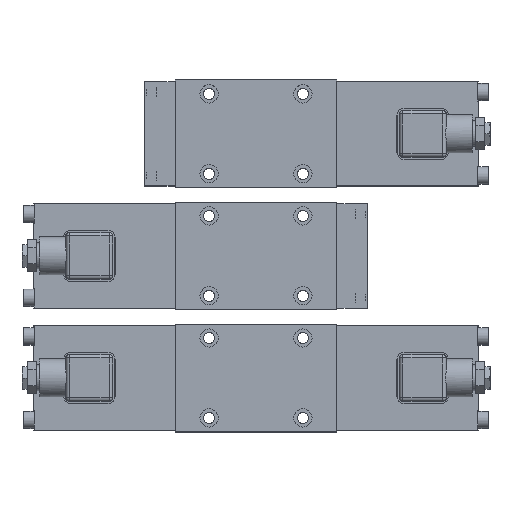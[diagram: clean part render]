
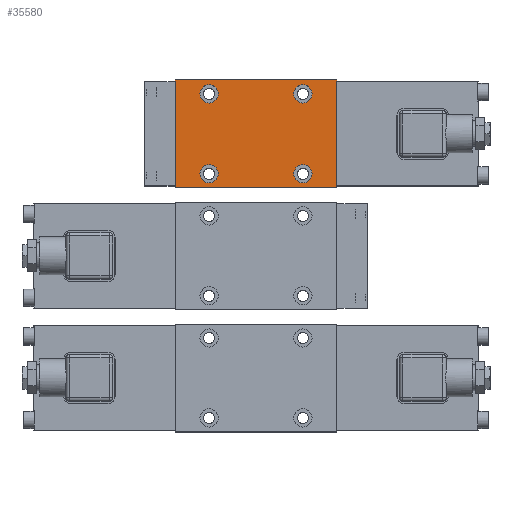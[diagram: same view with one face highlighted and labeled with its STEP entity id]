
A CAD part, top view. The second image highlights one B-rep face of the part: STEP entity #35580.
In plain terms, the highlighted planar face has unit normal (0, 0, 1).
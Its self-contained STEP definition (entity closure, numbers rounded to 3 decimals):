
#35580=ADVANCED_FACE('', (#35590,#35600,#35610,#35620,#35630), #35640, 
.T.);
#110420=AXIS2_PLACEMENT_3D('Ax2Pl3d', #110430, #110440, #110450);
#110500=AXIS2_PLACEMENT_3D('Ax2Pl3d', #110510, #110520, #110530);
#110580=AXIS2_PLACEMENT_3D('Ax2Pl3d', #110590, #110600, #110610);
#110660=AXIS2_PLACEMENT_3D('Ax2Pl3d', #110670, #110680, #110690);
#110700=AXIS2_PLACEMENT_3D('Ax2Pl3d', #110710, #110720, #110730);
#171900=CARTESIAN_POINT('', (0.,140.,362.));
#171910=CARTESIAN_POINT('', (0.,140.,362.));
#171920=CARTESIAN_POINT('', (0.,202.,362.));
#172030=CARTESIAN_POINT('', (93.,202.,362.));
#172040=CARTESIAN_POINT('', (93.,202.,362.));
#172050=CARTESIAN_POINT('', (93.,140.,362.));
#110430=CARTESIAN_POINT('HicPkt', (19.5,148.,362.));
#172130=CARTESIAN_POINT('', (19.5,153.25,362.));
#110510=CARTESIAN_POINT('HicPkt', (19.5,194.,362.));
#172140=CARTESIAN_POINT('', (19.5,199.25,362.));
#110590=CARTESIAN_POINT('HicPkt', (73.5,194.,362.));
#172150=CARTESIAN_POINT('', (73.5,199.25,362.));
#110670=CARTESIAN_POINT('HicPkt', (73.5,148.,362.));
#172160=CARTESIAN_POINT('', (73.5,153.25,362.));
#110710=CARTESIAN_POINT('HicPkt', (0.,202.,362.));
#172170=CARTESIAN_POINT('', (93.,140.,362.));
#172180=CARTESIAN_POINT('', (0.,202.,362.));
#181530=CIRCLE('Circle', #110420, 5.25);
#181540=CIRCLE('Circle', #110500, 5.25);
#181550=CIRCLE('Circle', #110580, 5.25);
#181560=CIRCLE('Circle', #110660, 5.25);
#271580=DIRECTION('', (0.,-1.,0.));
#271610=DIRECTION('', (0.,1.,0.));
#110440=DIRECTION('Axis', (0.,0.,1.));
#110450=DIRECTION('RefDirection', (1.,0.,0.));
#110520=DIRECTION('Axis', (0.,0.,1.));
#110530=DIRECTION('RefDirection', (1.,0.,0.));
#110600=DIRECTION('Axis', (0.,0.,1.));
#110610=DIRECTION('RefDirection', (1.,0.,0.));
#110680=DIRECTION('Axis', (0.,0.,1.));
#110690=DIRECTION('RefDirection', (1.,0.,0.));
#110720=DIRECTION('Axis', (0.,0.,1.));
#110730=DIRECTION('RefDirection', (1.,0.,0.));
#271630=DIRECTION('', (1.,0.,0.));
#271640=DIRECTION('', (-1.,0.,0.));
#317550=EDGE_CURVE('', #317560, #317530, #317570, .T.);
#317790=EDGE_CURVE('', #317800, #317770, #317810, .T.);
#317960=EDGE_CURVE('', #317970, #317970, #181530, .T.);
#317980=EDGE_CURVE('', #317990, #317990, #181540, .T.);
#318000=EDGE_CURVE('', #318010, #318010, #181550, .T.);
#318020=EDGE_CURVE('', #318030, #318030, #181560, .T.);
#318040=EDGE_CURVE('', #317530, #317800, #318050, .T.);
#318060=EDGE_CURVE('', #317770, #317560, #318070, .T.);
#375500=EDGE_LOOP('Edge_loop', (#375510,#375520,#375530,#375540));
#375550=EDGE_LOOP('Edge_loop', (#375560));
#375570=EDGE_LOOP('Edge_loop', (#375580));
#375590=EDGE_LOOP('Edge_loop', (#375600));
#375610=EDGE_LOOP('Edge_loop', (#375620));
#35600=FACE_BOUND('', #375550, .T.);
#35610=FACE_BOUND('', #375570, .T.);
#35620=FACE_BOUND('', #375590, .T.);
#35630=FACE_BOUND('', #375610, .T.);
#35590=FACE_OUTER_BOUND('Face_outer_bound', #375500, .T.);
#317570=LINE('Line', #171910, #418860);
#317810=LINE('Line', #172040, #418890);
#318050=LINE('Line', #172170, #418910);
#318070=LINE('Line', #172180, #418920);
#375510=ORIENTED_EDGE('', *, *, #317550, .T.);
#375520=ORIENTED_EDGE('', *, *, #318040, .T.);
#375530=ORIENTED_EDGE('', *, *, #317790, .T.);
#375540=ORIENTED_EDGE('', *, *, #318060, .T.);
#375560=ORIENTED_EDGE('', *, *, #317960, .F.);
#375580=ORIENTED_EDGE('', *, *, #317980, .F.);
#375600=ORIENTED_EDGE('', *, *, #318000, .F.);
#375620=ORIENTED_EDGE('', *, *, #318020, .F.);
#35640=PLANE('Plane', #110700);
#418860=VECTOR('', #271580, 62.);
#418890=VECTOR('', #271610, 62.);
#418910=VECTOR('', #271630, 93.);
#418920=VECTOR('', #271640, 93.);
#317530=VERTEX_POINT('', #171900);
#317560=VERTEX_POINT('', #171920);
#317770=VERTEX_POINT('', #172030);
#317800=VERTEX_POINT('', #172050);
#317970=VERTEX_POINT('', #172130);
#317990=VERTEX_POINT('', #172140);
#318010=VERTEX_POINT('', #172150);
#318030=VERTEX_POINT('', #172160);
